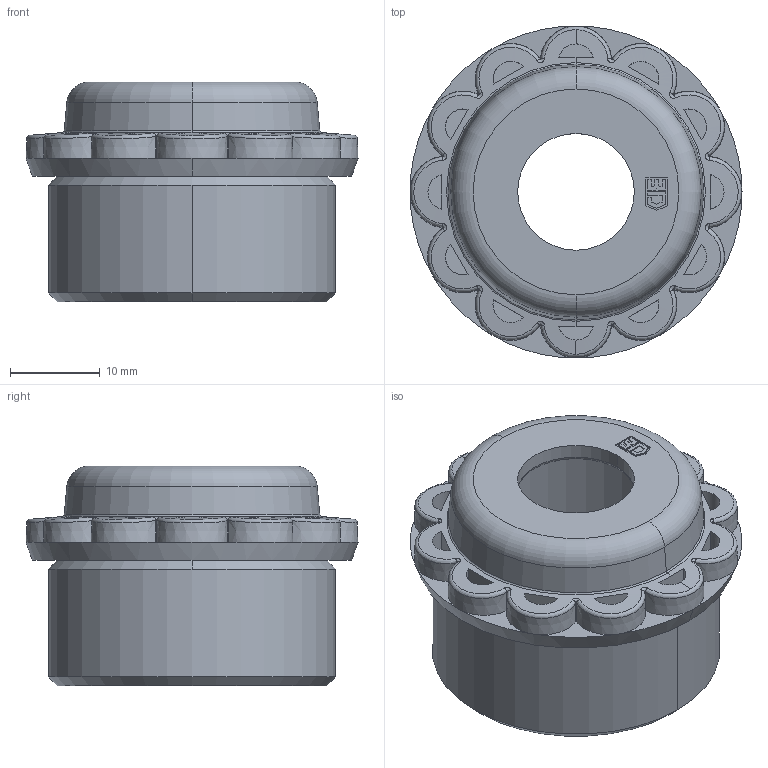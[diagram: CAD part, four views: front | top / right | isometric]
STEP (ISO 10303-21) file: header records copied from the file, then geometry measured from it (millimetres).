
FILE_DESCRIPTION (( 'STEP AP203' ), '1' );
FILE_NAME ('132 MG.STEP', '2005-11-29T08:10:09', ( ' ' ), ( '' ), 'SwSTEP 2.0', 'SolidWorks 2005278', '' );
FILE_SCHEMA (( 'CONFIG_CONTROL_DESIGN' ));
Length unit declared in the file: millimetre
Products named in the file (1): 132 MG
Bounding box: 37 x 37 x 24.5 mm (x, y, z)
Volume: 8069.1 mm3; surface area: 6504.4 mm2
Topology: 1 solids, 1 shells, 274 faces, 695 edges, 445 vertices
Faces by surface type: plane 146, bspline 64, cone 29, cylinder 25, torus 10
Entity records: 33721 total; most frequent: CARTESIAN_POINT 27477, ORIENTED_EDGE 1390, DIRECTION 1068, EDGE_CURVE 695, VERTEX_POINT 445, VECTOR 384, LINE 384, AXIS2_PLACEMENT_3D 342
